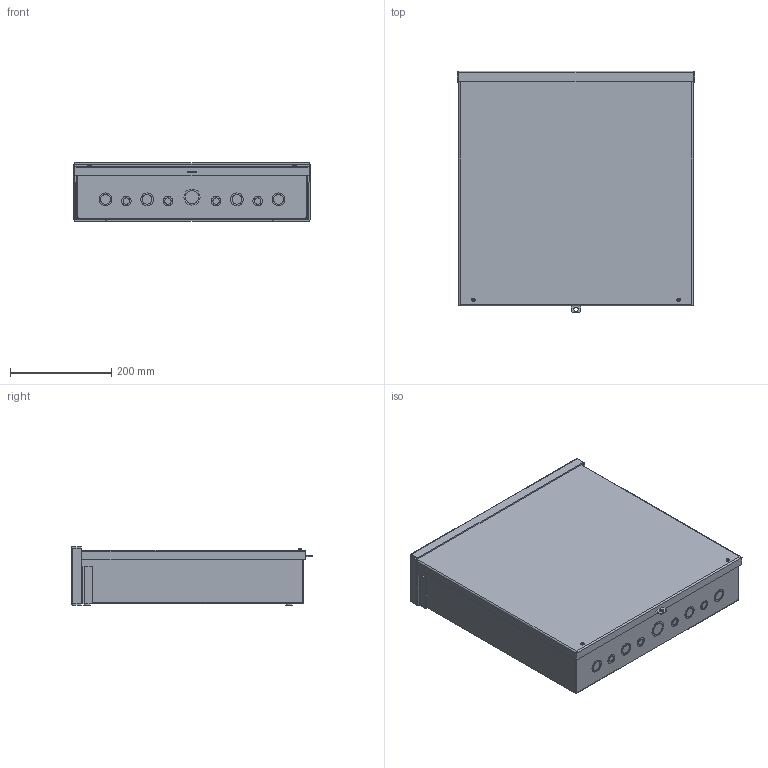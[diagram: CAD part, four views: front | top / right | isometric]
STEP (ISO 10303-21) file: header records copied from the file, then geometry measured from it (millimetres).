
FILE_DESCRIPTION((''),'1');
FILE_NAME('9','2001-04-17T',('jlue'),(''),'PRO/ENGINEER BY PARAMETRIC TECHNOLOGY CORPORATION, 9846','PRO/ENGINEER BY PARAMETRIC TECHNOLOGY CORPORATION, 9846','');
FILE_SCHEMA(('CONFIG_CONTROL_DESIGN'));
Length unit declared in the file: inch
Products named in the file (1): 9
Bounding box: 469.9 x 478.28 x 115.7 mm (x, y, z)
Surface area: 1353667.8 mm2 (no closed solid volume)
Topology: 0 solids, 0 shells, 204 faces, 1035 edges, 1056 vertices
Faces by surface type: plane 109, cylinder 87, sphere 8
Entity records: 5363 total; most frequent: DIRECTION 1108, COMPOSITE_CURVE_SEGMENT 982, CARTESIAN_POINT 838, TRIMMED_CURVE 510, AXIS2_PLACEMENT_3D 394, VECTOR 320, LINE 320, CURVE_BOUNDED_SURFACE 204
